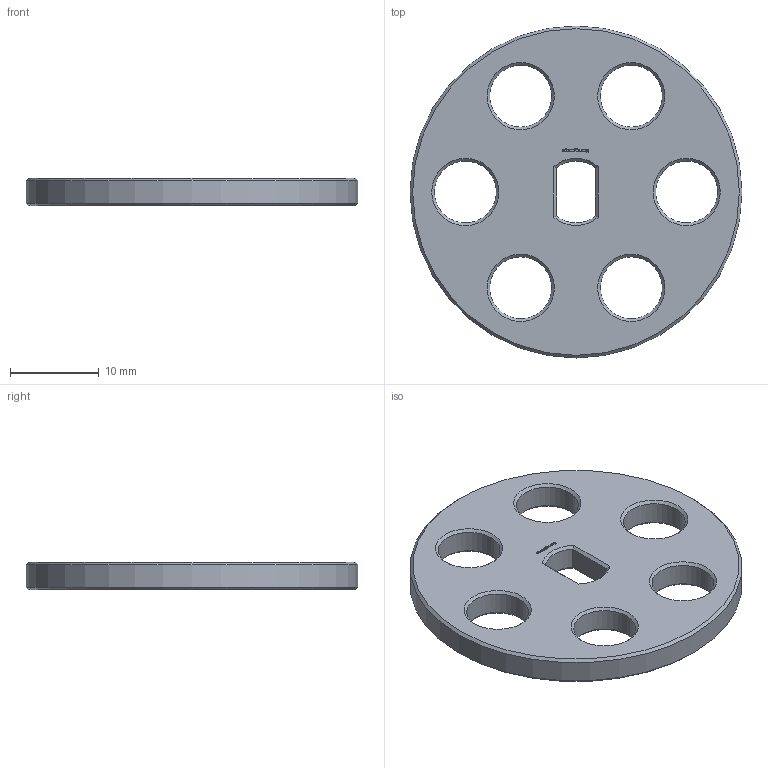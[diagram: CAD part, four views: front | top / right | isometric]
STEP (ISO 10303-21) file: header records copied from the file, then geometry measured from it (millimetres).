
FILE_DESCRIPTION(/* description */ (''),/* implementation_level */ '2;1');
FILE_NAME(/* name */ '/Users/paulokiefe/Desktop/STEMFIE/Fasteners/Washers/Fixed/Washer WSR FXD BU0.25x3.00 - SPN-WSR-0009 v1.step',/* time_stamp */ '2020-09-27T23:15:13+02:00',/* author */ (''),/* organization */ (''),/* preprocessor_version */ 'ST-DEVELOPER v18.1',/* originating_system */ 'Autodesk Translation Framework v9.3.0.1241',/* authorisation */ '');
FILE_SCHEMA (('AUTOMOTIVE_DESIGN { 1 0 10303 214 3 1 1 }'));
Length unit declared in the file: millimetre
Products named in the file (1): Washer WSR FXD BU0.25x3.00 - SPN-WSR-0009
Bounding box: 37.5 x 37.5 x 3.12 mm (x, y, z)
Volume: 2615.7 mm3; surface area: 2441.2 mm2
Topology: 1 solids, 1 shells, 279 faces, 773 edges, 508 vertices
Faces by surface type: plane 252, cone 18, cylinder 9
Full cylindrical faces by diameter (mm): 7 x6, 37.5 x1
Entity records: 8796 total; most frequent: CARTESIAN_POINT 1585, ORIENTED_EDGE 1546, DIRECTION 1361, EDGE_CURVE 773, LINE 729, VECTOR 729, VERTEX_POINT 508, AXIS2_PLACEMENT_3D 316
